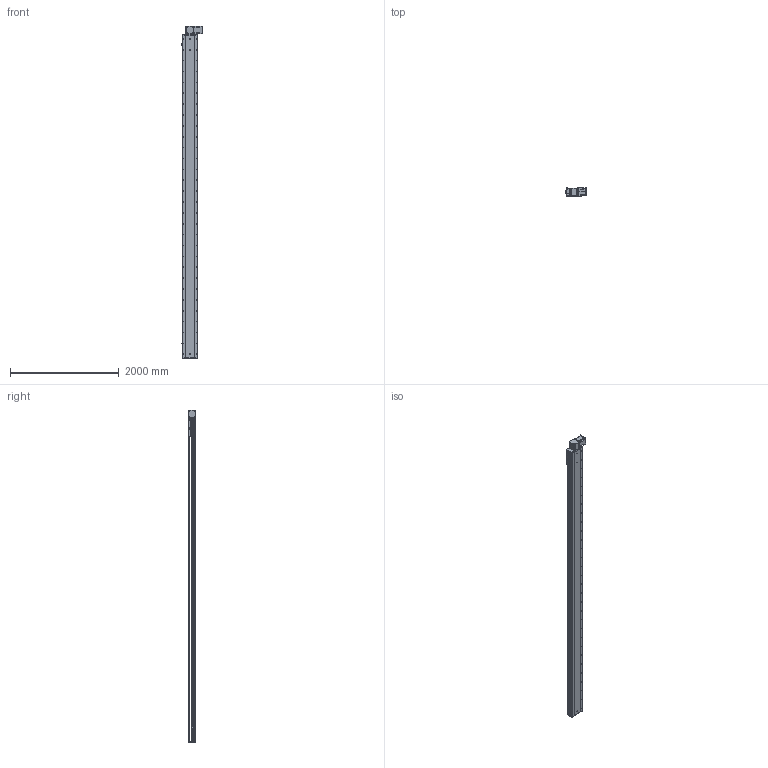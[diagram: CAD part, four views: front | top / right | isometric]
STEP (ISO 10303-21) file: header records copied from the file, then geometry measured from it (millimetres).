
FILE_DESCRIPTION (( 'STEP AP214' ), '1' );
FILE_NAME ('RTB28S-XX-5500-BL-M100-XX-C4.STEP', '2025-12-22T02:55:39', ( '' ), ( '' ), 'SwSTEP 2.0', 'SolidWorks 2018', '' );
FILE_SCHEMA (( 'AUTOMOTIVE_DESIGN' ));
Length unit declared in the file: millimetre
Products named in the file (4): RTB28S-XX-5500-BL-M100-XX-C4; RTB28S-GY-011^RTB28S-XX-XX-BL-M100-XX-C4; RTB28S-GY-004^RTB28S-XX-XX-BL-M100-XX-C4; RTB28S-GY-008^RTB28S-XX-XX-BL-M100-XX-C4
Assembly tree (3 placements, depth 2):
  RTB28S-XX-5500-BL-M100-XX-C4
    RTB28S-GY-011^RTB28S-XX-XX-BL-M100-XX-C4
    RTB28S-GY-004^RTB28S-XX-XX-BL-M100-XX-C4
    RTB28S-GY-008^RTB28S-XX-XX-BL-M100-XX-C4
Bounding box: 380.7 x 145 x 6107 mm (x, y, z)
Volume: 100487114.5 mm3; surface area: 9254867.6 mm2
Topology: 3 solids, 4 shells, 1008 faces, 2748 edges, 1768 vertices
Faces by surface type: cylinder 535, plane 389, cone 80, torus 4
Entity records: 40205 total; most frequent: CARTESIAN_POINT 8302, DIRECTION 5874, ORIENTED_EDGE 5432, EDGE_CURVE 2716, AXIS2_PLACEMENT_3D 2212, VERTEX_POINT 1768, LINE 1450, VECTOR 1450
